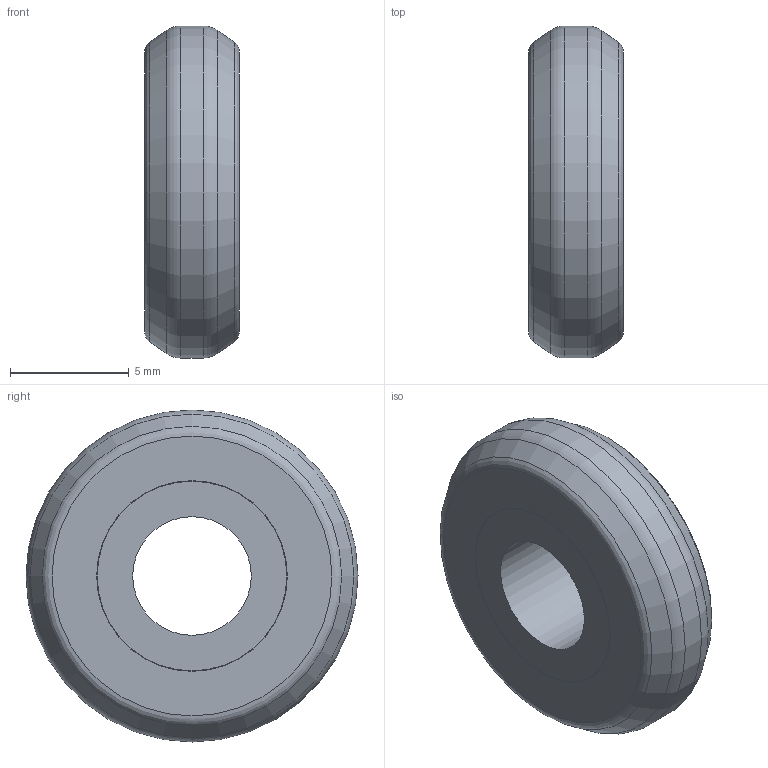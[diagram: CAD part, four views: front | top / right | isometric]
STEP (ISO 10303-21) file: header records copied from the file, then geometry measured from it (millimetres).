
FILE_DESCRIPTION( ( 'STEP AP203' ), '1' );
FILE_NAME( 'C:/Temp/Ganter_Step_05_03_2020/data/3_8/gn2426/Track GN 2426-18-B-2RS.stp', '2020-03-12T15:07:21', ( 'License CC BY-ND 4.0' ), ( 'CADENAS' ), ' ', 'PARTsolutions', ' ' );
FILE_SCHEMA( ( 'CONFIG_CONTROL_DESIGN' ) );
Length unit declared in the file: millimetre
Products named in the file (1): _Track GN 2426-18-B-2RS
Bounding box: 4 x 14 x 14 mm (x, y, z)
Volume: 493 mm3; surface area: 450.4 mm2
Topology: 1 solids, 1 shells, 18 faces, 30 edges, 18 vertices
Faces by surface type: plane 6, cylinder 6, torus 4, cone 2
Full cylindrical faces by diameter (mm): 5 x1, 8 x2, 8.04 x2, 14 x1
Entity records: 412 total; most frequent: DIRECTION 74, CARTESIAN_POINT 55, AXIS2_PLACEMENT_3D 37, EDGE_LOOP 36, ORIENTED_EDGE 36, FACE_OUTER_BOUND 28, ADVANCED_FACE 18, EDGE_CURVE 18
